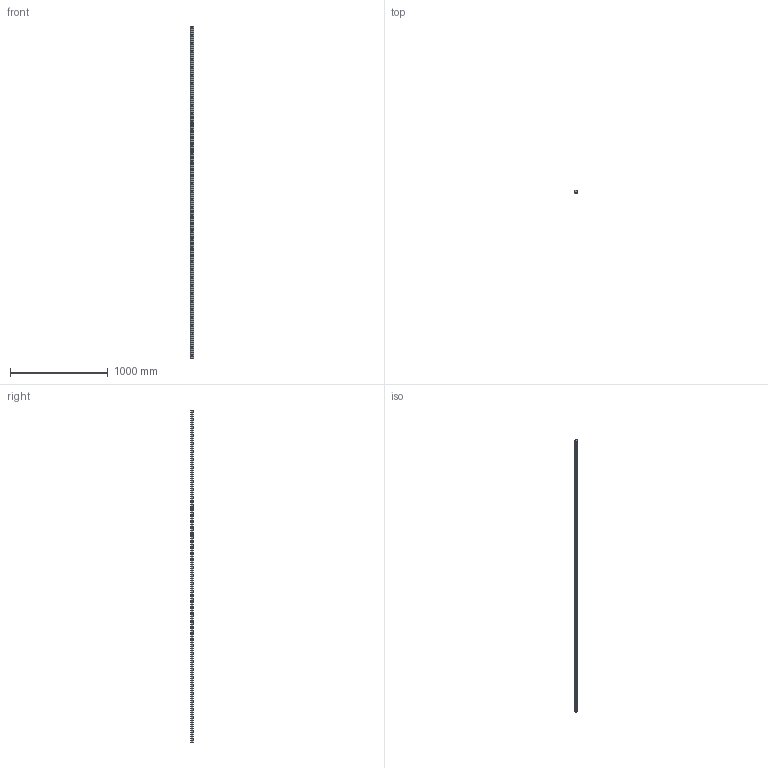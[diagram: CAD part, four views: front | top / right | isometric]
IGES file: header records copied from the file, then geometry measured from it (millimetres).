
Start section: SolidWorks IGES file using analytic representation for surfaces
Global section: file name: C:\Users\IanO\Desktop\Temp File\GENERAL\L1016_v2\L1016.RF35_v2\L1016.RF35_v2_20190612_IGES\L1016.RF35-3400.igs; native system: SolidWorks 2017; preprocessor: SolidWorks 2017; author: IanO; date: 190613.173331; units: millimetre
Bounding box: 34 x 26 x 3400 mm (x, y, z)
Surface area: 442649.8 mm2 (no closed solid volume)
Topology: 0 solids, 0 shells, 327 faces, 5328 edges, 5242 vertices
Faces by surface type: revolution 262, bspline 65
